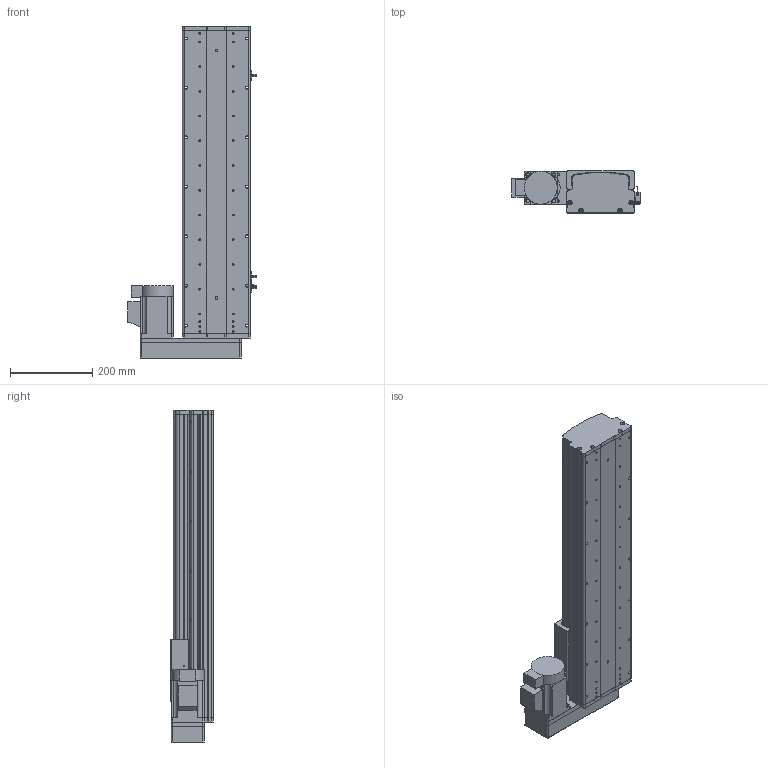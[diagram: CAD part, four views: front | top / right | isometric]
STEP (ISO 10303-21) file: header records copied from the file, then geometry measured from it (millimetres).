
FILE_DESCRIPTION (( 'STEP AP214' ), '1' );
FILE_NAME ('KSD165S-S500-MR-CM .STEP', '2017-10-17T09:24:08', ( '微软用户' ), ( '微软中国' ), 'SwSTEP 2.0', 'SolidWorks 2014', '' );
FILE_SCHEMA (( 'AUTOMOTIVE_DESIGN' ));
Length unit declared in the file: millimetre
Products named in the file (17): KSD165模组底板-500行程-最新 - 1; HTPA26S5M250-A-H8丝杆用(内径14）; HTPA26S5M250-A-H8 750W萇儂蚚; 肣翐M4X35樓6; 165宽模组保护罩左右折; 165宽模组马达安装板连板左右折丝杆; KSD165模组-丝杆上下左右折前端板; KSD165耀郪-佪裝-滅袉菜-3 -; KSD165耀郪-佪裝-滅袉菜-1; 覜茼え68遵圉猾敕; U倰嫖萇假蚾璃; U倰嫖萇EEㄜSX672; KSD165耀郪-綴傷啣1; KSD165模组-丝杆滑动座-最新版; KSD165S-S500-MR-CM ; 拸秶雄ん750W侜督萇儂; KSD165模组-防尘盖1-500行程-最新版
Assembly tree (23 placements, depth 2):
  KSD165S-S500-MR-CM 
    KSD165模组-丝杆滑动座-最新版
    KSD165耀郪-綴傷啣1
    U倰嫖萇EEㄜSX672  x3
    U倰嫖萇假蚾璃  x3
    覜茼え68遵圉猾敕
    KSD165耀郪-佪裝-滅袉菜-1
    KSD165耀郪-佪裝-滅袉菜-3 -
    KSD165模组-丝杆上下左右折前端板
    165宽模组马达安装板连板左右折丝杆
    165宽模组保护罩左右折
    肣翐M4X35樓6  x4
    HTPA26S5M250-A-H8 750W萇儂蚚
    HTPA26S5M250-A-H8丝杆用(内径14）
    KSD165模组底板-500行程-最新 - 1
    KSD165模组-防尘盖1-500行程-最新版
    拸秶雄ん750W侜督萇儂
Bounding box: 311.2 x 104 x 805.5 mm (x, y, z)
Volume: 5617564.1 mm3; surface area: 1302502.1 mm2
Topology: 24 solids, 24 shells, 1851 faces, 5214 edges, 3403 vertices
Faces by surface type: cylinder 1167, plane 575, cone 109
Entity records: 59037 total; most frequent: CARTESIAN_POINT 12295, DIRECTION 9543, ORIENTED_EDGE 8908, EDGE_CURVE 4454, AXIS2_PLACEMENT_3D 3732, VERTEX_POINT 2932, CIRCLE 2120, LINE 2079
